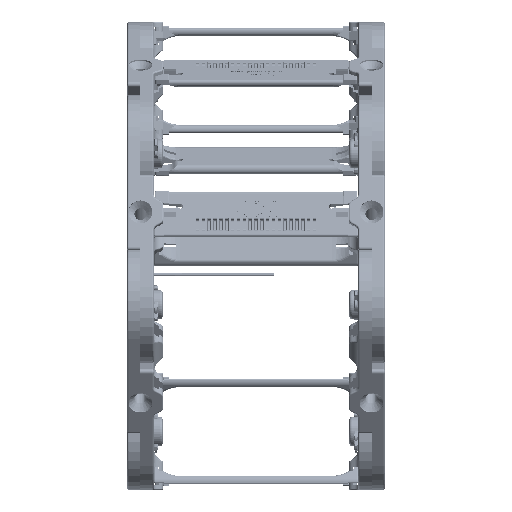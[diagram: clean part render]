
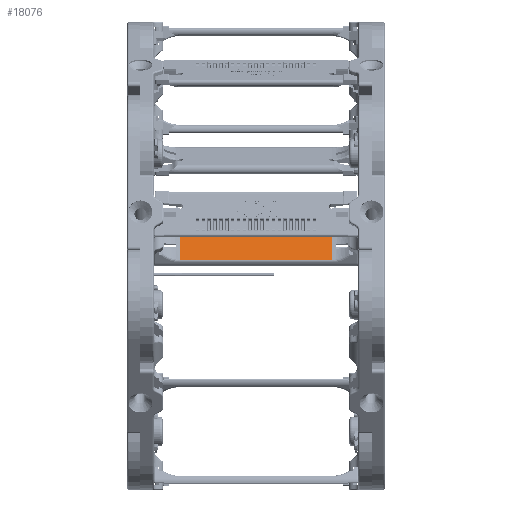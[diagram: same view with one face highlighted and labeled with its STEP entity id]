
A CAD part, front view. The second image highlights one B-rep face of the part: STEP entity #18076.
In plain terms, the highlighted planar face has unit normal (0, -0.956, 0.292) as drawn and (0, 0, -1) by its records, which use the part's own axes.
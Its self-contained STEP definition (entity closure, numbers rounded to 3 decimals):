
#14344=CARTESIAN_POINT('',(5.548,3.7,0.));
#14345=VERTEX_POINT('',#14344);
#14353=CARTESIAN_POINT('',(5.2,3.7,0.));
#14354=VERTEX_POINT('',#14353);
#14355=CARTESIAN_POINT('',(5.548,3.7,0.));
#14356=DIRECTION('',(-1.0,0.0,0.0));
#14357=VECTOR('',#14356,0.348);
#14358=LINE('',#14355,#14357);
#14359=EDGE_CURVE('',#14345,#14354,#14358,.T.);
#14429=CARTESIAN_POINT('',(5.548,13.445,0.));
#14430=VERTEX_POINT('',#14429);
#14619=CARTESIAN_POINT('',(5.548,0.8,0.));
#14620=VERTEX_POINT('',#14619);
#14630=CARTESIAN_POINT('',(5.548,3.7,0.));
#14631=DIRECTION('',(0.0,-1.0,0.0));
#14632=VECTOR('',#14631,2.9);
#14633=LINE('',#14630,#14632);
#14634=EDGE_CURVE('',#14345,#14620,#14633,.T.);
#15002=CARTESIAN_POINT('',(5.548,5.22,0.));
#15003=VERTEX_POINT('',#15002);
#15011=CARTESIAN_POINT('',(5.548,13.445,0.));
#15012=DIRECTION('',(0.0,-1.0,0.0));
#15013=VECTOR('',#15012,8.225);
#15014=LINE('',#15011,#15013);
#15015=EDGE_CURVE('',#14430,#15003,#15014,.T.);
#15239=CARTESIAN_POINT('',(5.2,4.5,0.));
#15240=DIRECTION('',(0.,0.,-1.0));
#15241=DIRECTION('',(0.968,0.25,0.));
#15242=AXIS2_PLACEMENT_3D('',#15239,#15240,#15241);
#15243=CIRCLE('',#15242,0.8);
#15244=EDGE_CURVE('',#14354,#15003,#15243,.T.);
#17201=CARTESIAN_POINT('',(-46.4,3.7,0.));
#17202=VERTEX_POINT('',#17201);
#17209=CARTESIAN_POINT('',(-46.748,3.7,0.));
#17210=VERTEX_POINT('',#17209);
#17211=CARTESIAN_POINT('',(-46.4,3.7,0.));
#17212=DIRECTION('',(-1.0,0.0,0.0));
#17213=VECTOR('',#17212,0.348);
#17214=LINE('',#17211,#17213);
#17215=EDGE_CURVE('',#17202,#17210,#17214,.T.);
#17354=CARTESIAN_POINT('',(-46.748,13.445,0.));
#17355=VERTEX_POINT('',#17354);
#17363=CARTESIAN_POINT('',(-46.748,5.22,0.));
#17364=VERTEX_POINT('',#17363);
#17365=CARTESIAN_POINT('',(-46.748,13.445,0.));
#17366=DIRECTION('',(0.0,-1.0,0.0));
#17367=VECTOR('',#17366,8.225);
#17368=LINE('',#17365,#17367);
#17369=EDGE_CURVE('',#17355,#17364,#17368,.T.);
#17654=CARTESIAN_POINT('',(-46.748,0.8,0.));
#17655=VERTEX_POINT('',#17654);
#17866=CARTESIAN_POINT('',(-46.748,3.7,0.));
#17867=DIRECTION('',(0.0,-1.0,0.0));
#17868=VECTOR('',#17867,2.9);
#17869=LINE('',#17866,#17868);
#17870=EDGE_CURVE('',#17210,#17655,#17869,.T.);
#17897=CARTESIAN_POINT('',(-46.4,4.5,0.));
#17898=DIRECTION('',(0.0,0.0,-1.0));
#17899=DIRECTION('',(0.0,-1.0,0.0));
#17900=AXIS2_PLACEMENT_3D('',#17897,#17898,#17899);
#17901=CIRCLE('',#17900,0.8);
#17902=EDGE_CURVE('',#17364,#17202,#17901,.T.);
#18021=CARTESIAN_POINT('',(-46.748,0.8,0.));
#18022=DIRECTION('',(1.0,0.0,0.0));
#18023=VECTOR('',#18022,52.296);
#18024=LINE('',#18021,#18023);
#18025=EDGE_CURVE('',#17655,#14620,#18024,.T.);
#18054=CARTESIAN_POINT('',(-56.748,15.,0.));
#18055=DIRECTION('',(0.0,0.0,1.0));
#18056=DIRECTION('',(1.0,0.0,0.0));
#18057=AXIS2_PLACEMENT_3D('',#18054,#18055,#18056);
#18058=PLANE('',#18057);
#18059=CARTESIAN_POINT('',(5.548,13.445,0.));
#18060=DIRECTION('',(-1.0,0.0,0.0));
#18061=VECTOR('',#18060,52.296);
#18062=LINE('',#18059,#18061);
#18063=EDGE_CURVE('',#14430,#17355,#18062,.T.);
#18064=ORIENTED_EDGE('',*,*,#18063,.F.);
#18065=ORIENTED_EDGE('',*,*,#15015,.T.);
#18066=ORIENTED_EDGE('',*,*,#15244,.F.);
#18067=ORIENTED_EDGE('',*,*,#14359,.F.);
#18068=ORIENTED_EDGE('',*,*,#14634,.T.);
#18069=ORIENTED_EDGE('',*,*,#18025,.F.);
#18070=ORIENTED_EDGE('',*,*,#17870,.F.);
#18071=ORIENTED_EDGE('',*,*,#17215,.F.);
#18072=ORIENTED_EDGE('',*,*,#17902,.F.);
#18073=ORIENTED_EDGE('',*,*,#17369,.F.);
#18074=EDGE_LOOP('',(#18064,#18065,#18066,#18067,#18068,#18069,#18070,#18071,#18072,#18073));
#18075=FACE_OUTER_BOUND('',#18074,.T.);
#18076=ADVANCED_FACE('',(#18075),#18058,.F.);
